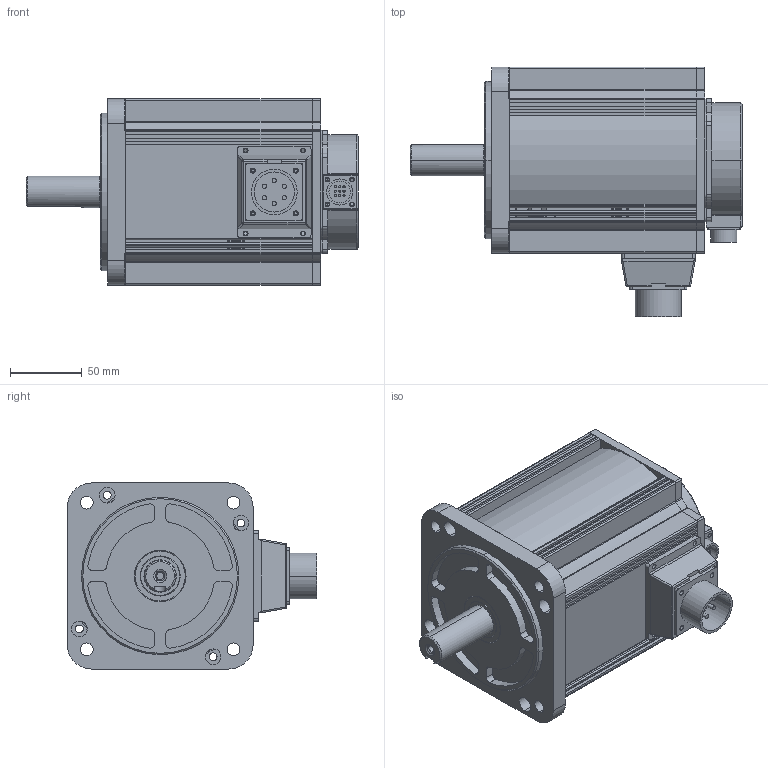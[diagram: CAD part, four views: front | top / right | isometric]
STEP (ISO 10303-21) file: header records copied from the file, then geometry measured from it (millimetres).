
FILE_DESCRIPTION(('FreeCAD Model'),'2;1');
FILE_NAME('Open CASCADE Shape Model','2025-03-19T09:52:06',('Author'),( ''),'Open CASCADE STEP processor 7.6','FreeCAD','Unknown');
FILE_SCHEMA(('AUTOMOTIVE_DESIGN { 1 0 10303 214 1 1 1 1 }'));
Length unit declared in the file: millimetre
Products named in the file (164): PSM6H-130CM15B2-41P8; PSM6H-130CM15B2-41P009; PSM6H-130CM15B2-41P010; PSM6H-130CM15B2-41P011; PSM6H-130CM15B2-41P012; PSM6H-130CM15B2-41P013; PSM6H-130CM15B2-41P014; PSM6H-130CM15B2-41P015; PSM6H-130CM15B2-41P016; PSM6H-130CM15B2-41P017; PSM6H-130CM15B2-41P018; PSM6H-130CM15B2-41P019; PSM6H-130CM15B2-41P020; PSM6H-130CM15B2-41P021; PSM6H-130CM15B2-41P022; PSM6H-130CM15B2-41P023; PSM6H-130CM15B2-41P024; PSM6H-130CM15B2-41P025; PSM6H-130CM15B2-41P026; PSM6H-130CM15B2-41P027; PSM6H-130CM15B2-41P028; PSM6H-130CM15B2-41P029; PSM6H-130CM15B2-41P030; PSM6H-130CM15B2-41P031; PSM6H-130CM15B2-41P032; PSM6H-130CM15B2-41P033; PSM6H-130CM15B2-41P034; PSM6H-130CM15B2-41P035; PSM6H-130CM15B2-41P036; PSM6H-130CM15B2-41P037; PSM6H-130CM15B2-41P038; PSM6H-130CM15B2-41P039; PSM6H-130CM15B2-41P040; PSM6H-130CM15B2-41P041; PSM6H-130CM15B2-41P042; PSM6H-130CM15B2-41P043; PSM6H-130CM15B2-41P044; PSM6H-130CM15B2-41P045; PSM6H-130CM15B2-41P046; PSM6H-130CM15B2-41P047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
Assembly tree (163 placements, depth 2):
  PSM6H-130CM15B2-41P8
    PSM6H-130CM15B2-41P009
    PSM6H-130CM15B2-41P010
    PSM6H-130CM15B2-41P011
    PSM6H-130CM15B2-41P012
    PSM6H-130CM15B2-41P013
    PSM6H-130CM15B2-41P014
    PSM6H-130CM15B2-41P015
    PSM6H-130CM15B2-41P016
    PSM6H-130CM15B2-41P017
    PSM6H-130CM15B2-41P018
    PSM6H-130CM15B2-41P019
    PSM6H-130CM15B2-41P020
    PSM6H-130CM15B2-41P021
    PSM6H-130CM15B2-41P022
    PSM6H-130CM15B2-41P023
    PSM6H-130CM15B2-41P024
    PSM6H-130CM15B2-41P025
    PSM6H-130CM15B2-41P026
    PSM6H-130CM15B2-41P027
    PSM6H-130CM15B2-41P028
    PSM6H-130CM15B2-41P029
    PSM6H-130CM15B2-41P030
    PSM6H-130CM15B2-41P031
    PSM6H-130CM15B2-41P032
    PSM6H-130CM15B2-41P033
    PSM6H-130CM15B2-41P034
    PSM6H-130CM15B2-41P035
    PSM6H-130CM15B2-41P036
    PSM6H-130CM15B2-41P037
    PSM6H-130CM15B2-41P038
    PSM6H-130CM15B2-41P039
    PSM6H-130CM15B2-41P040
    PSM6H-130CM15B2-41P041
    PSM6H-130CM15B2-41P042
    PSM6H-130CM15B2-41P043
    PSM6H-130CM15B2-41P044
    PSM6H-130CM15B2-41P045
    PSM6H-130CM15B2-41P046
    PSM6H-130CM15B2-41P047
    PSM6H-130CM15B2-41P048
    PSM6H-130CM15B2-41P049
    PSM6H-130CM15B2-41P050
    PSM6H-130CM15B2-41P051
    PSM6H-130CM15B2-41P052
    PSM6H-130CM15B2-41P053
    PSM6H-130CM15B2-41P054
    PSM6H-130CM15B2-41P055
    PSM6H-130CM15B2-41P056
    PSM6H-130CM15B2-41P057
    PSM6H-130CM15B2-41P058
    PSM6H-130CM15B2-41P059
    PSM6H-130CM15B2-41P060
    PSM6H-130CM15B2-41P061
    PSM6H-130CM15B2-41P062
    PSM6H-130CM15B2-41P063
    PSM6H-130CM15B2-41P064
    PSM6H-130CM15B2-41P065
    PSM6H-130CM15B2-41P066
    PSM6H-130CM15B2-41P067
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Bounding box: 232 x 174.5 x 130 mm (x, y, z)
Surface area: 203055.1 mm2 (no closed solid volume)
Topology: 0 solids, 163 shells, 2334 faces, 8329 edges, 6083 vertices
Faces by surface type: cylinder 1275, plane 958, cone 31, torus 28, bspline 22, sphere 14, revolution 6
Entity records: 95272 total; most frequent: CARTESIAN_POINT 18315, DIRECTION 16565, ORIENTED_EDGE 12901, EDGE_CURVE 8305, VERTEX_POINT 6083, AXIS2_PLACEMENT_3D 5877, LINE 4805, VECTOR 4805
